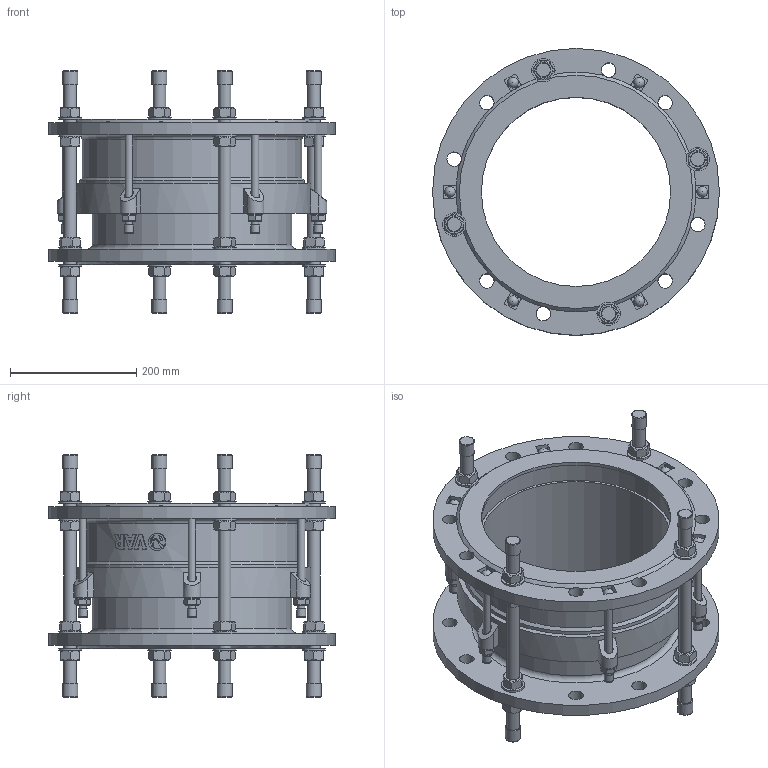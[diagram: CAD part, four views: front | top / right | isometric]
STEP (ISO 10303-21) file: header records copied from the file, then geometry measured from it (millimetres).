
FILE_DESCRIPTION(('STEP AP242'), '1');
FILE_NAME('Ìîíòàæíàÿ âñòàâêà', '', ('UNSPECIFIED'), ('UNSPECIFIED'), 'C3D Converter', 'C3D Toolkit', '');
FILE_SCHEMA(('AP242_MANAGED_MODEL_BASED_3D_ENGINEERING_MIM_LF { 1 0 10303 442 1 1 4 }'));
Length unit declared in the file: millimetre
Products named in the file (13): ШМ.М16.310
Assembly tree (72 placements, depth 2):
  (unnamed)
    (unnamed)
    (unnamed)
    (unnamed)
    (unnamed)  x16
    (unnamed)  x16
    ШМ.М16.310  x4
    (unnamed)  x8
    (unnamed)
    (unnamed)  x6
    (unnamed)  x6
    (unnamed)  x6
    (unnamed)  x6
Bounding box: 455 x 455 x 384 mm (x, y, z)
Volume: 8135872.9 mm3; surface area: 1580760.9 mm2
Topology: 72 solids, 72 shells, 794 faces, 1786 edges, 1134 vertices
Faces by surface type: plane 465, cylinder 187, cone 109, torus 16, extrusion 11, sphere 6
Full cylindrical faces by diameter (mm): 12 x18, 13 x6, 14 x6, 14.4 x6, 20 x28, 21 x16, 23 x24, 24 x14, 27.455 x1, 37 x16, 300 x2, 316 x2, 324 x2, 348 x1, 356 x1, 357 x1, 361 x1, 377 x1, 455 x2
Entity records: 18559 total; most frequent: CARTESIAN_POINT 8824, DIRECTION 1600, ORIENTED_EDGE 1420, EDGE_CURVE 710, AXIS2_PLACEMENT_3D 653, VERTEX_POINT 511, EDGE_LOOP 449, FACE_BOUND 331
